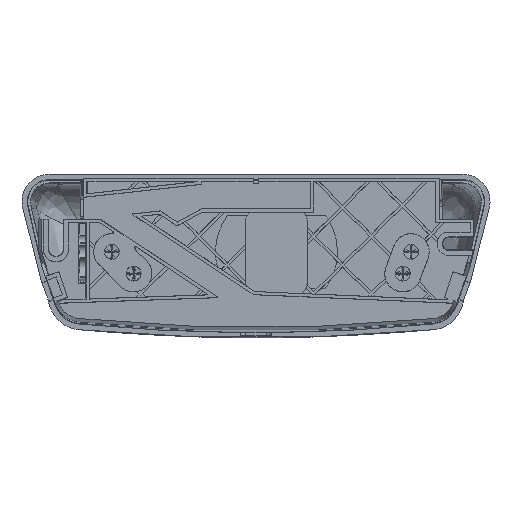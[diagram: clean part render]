
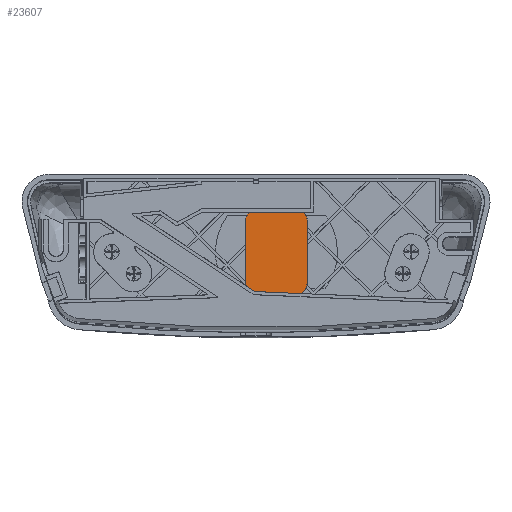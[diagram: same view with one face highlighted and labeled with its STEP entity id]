
A CAD part, front view. The second image highlights one B-rep face of the part: STEP entity #23607.
In plain terms, the highlighted planar face has unit normal (0, -1, 0).
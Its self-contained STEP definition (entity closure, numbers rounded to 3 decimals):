
#930 = CARTESIAN_POINT ( 'NONE',  ( 118.409, 80.32, 119.118 ) ) ;
#1602 = VECTOR ( 'NONE', #43560, 1000. ) ;
#2126 = DIRECTION ( 'NONE',  ( 1., 0., -0.001 ) ) ;
#3366 = VERTEX_POINT ( 'NONE', #5809 ) ;
#3672 = ORIENTED_EDGE ( 'NONE', *, *, #68533, .T. ) ;
#4600 = VERTEX_POINT ( 'NONE', #20151 ) ;
#4736 = EDGE_CURVE ( 'NONE', #4600, #30158, #47430, .T. ) ;
#5734 = CARTESIAN_POINT ( 'NONE',  ( 97.734, 80.32, 93.012 ) ) ;
#5778 = ORIENTED_EDGE ( 'NONE', *, *, #20110, .T. ) ;
#5809 = CARTESIAN_POINT ( 'NONE',  ( 93.58, 80.32, 92.019 ) ) ;
#5987 = VERTEX_POINT ( 'NONE', #56559 ) ;
#7478 = DIRECTION ( 'NONE',  ( -0.834, 0., 0.552 ) ) ;
#7935 = ORIENTED_EDGE ( 'NONE', *, *, #22826, .T. ) ;
#8481 = CARTESIAN_POINT ( 'NONE',  ( 93.462, 80.32, 116.018 ) ) ;
#8755 = AXIS2_PLACEMENT_3D ( 'NONE', #5734, #11654, #35399 ) ;
#9472 = DIRECTION ( 'NONE',  ( 0., 0., 1. ) ) ;
#11652 = DIRECTION ( 'NONE',  ( 0., -1., 0. ) ) ;
#11654 = DIRECTION ( 'NONE',  ( 0., -1., 0. ) ) ;
#11730 = VECTOR ( 'NONE', #74095, 1000. ) ;
#12328 = EDGE_CURVE ( 'NONE', #36283, #68146, #46794, .T. ) ;
#12363 = VECTOR ( 'NONE', #2126, 1000. ) ;
#13436 = EDGE_CURVE ( 'NONE', #30226, #64357, #76082, .T. ) ;
#13612 = EDGE_LOOP ( 'NONE', ( #60473, #23102, #7935, #14756, #3672, #54552, #49356, #5778, #32128, #37526, #22201 ) ) ;
#14756 = ORIENTED_EDGE ( 'NONE', *, *, #52633, .T. ) ;
#17014 = CARTESIAN_POINT ( 'NONE',  ( 116.009, 80.32, 93.018 ) ) ;
#17960 = DIRECTION ( 'NONE',  ( -0.999, 0., 0.043 ) ) ;
#19092 = CIRCLE ( 'NONE', #50428, 4.274 ) ;
#20110 = EDGE_CURVE ( 'NONE', #4600, #36283, #23067, .T. ) ;
#20151 = CARTESIAN_POINT ( 'NONE',  ( 94.81, 80.32, 119.133 ) ) ;
#21000 = LINE ( 'NONE', #44474, #11730 ) ;
#22201 = ORIENTED_EDGE ( 'NONE', *, *, #45777, .F. ) ;
#22479 = CARTESIAN_POINT ( 'NONE',  ( 93.462, 80.32, 116.018 ) ) ;
#22826 = EDGE_CURVE ( 'NONE', #30226, #50977, #19092, .T. ) ;
#23067 = CIRCLE ( 'NONE', #43872, 4.274 ) ;
#23102 = ORIENTED_EDGE ( 'NONE', *, *, #13436, .F. ) ;
#23607 = ADVANCED_FACE ( 'NONE', ( #31037 ), #52425, .T. ) ;
#25977 = VERTEX_POINT ( 'NONE', #40378 ) ;
#27129 = DIRECTION ( 'NONE',  ( 0., -1., 0. ) ) ;
#30158 = VERTEX_POINT ( 'NONE', #930 ) ;
#30226 = VERTEX_POINT ( 'NONE', #67120 ) ;
#31037 = FACE_OUTER_BOUND ( 'NONE', #13612, .T. ) ;
#32128 = ORIENTED_EDGE ( 'NONE', *, *, #12328, .T. ) ;
#35256 = CARTESIAN_POINT ( 'NONE',  ( 102.786, 80.32, 89.672 ) ) ;
#35399 = DIRECTION ( 'NONE',  ( 0., 0., -1. ) ) ;
#36139 = CIRCLE ( 'NONE', #58542, 4.274 ) ;
#36283 = VERTEX_POINT ( 'NONE', #22479 ) ;
#37200 = DIRECTION ( 'NONE',  ( 0., -1., 0. ) ) ;
#37526 = ORIENTED_EDGE ( 'NONE', *, *, #74597, .T. ) ;
#37744 = EDGE_CURVE ( 'NONE', #5987, #30158, #21000, .T. ) ;
#38809 = AXIS2_PLACEMENT_3D ( 'NONE', #39493, #27129, #39234 ) ;
#39188 = DIRECTION ( 'NONE',  ( 0., -1., 0. ) ) ;
#39234 = DIRECTION ( 'NONE',  ( 0., 0., -1. ) ) ;
#39493 = CARTESIAN_POINT ( 'NONE',  ( 111.736, 80.32, 116.018 ) ) ;
#39722 = VECTOR ( 'NONE', #7478, 1000. ) ;
#40378 = CARTESIAN_POINT ( 'NONE',  ( 116.009, 80.32, 116.018 ) ) ;
#41057 = AXIS2_PLACEMENT_3D ( 'NONE', #76077, #11652, #46734 ) ;
#43388 = DIRECTION ( 'NONE',  ( 0., 0., -1. ) ) ;
#43560 = DIRECTION ( 'NONE',  ( 0., 0., -1. ) ) ;
#43872 = AXIS2_PLACEMENT_3D ( 'NONE', #44586, #39188, #50784 ) ;
#44474 = CARTESIAN_POINT ( 'NONE',  ( 118.436, 80.32, 119.118 ) ) ;
#44586 = CARTESIAN_POINT ( 'NONE',  ( 97.736, 80.32, 116.018 ) ) ;
#45777 = EDGE_CURVE ( 'NONE', #71173, #3366, #58180, .T. ) ;
#46734 = DIRECTION ( 'NONE',  ( 0., 0., -1. ) ) ;
#46794 = LINE ( 'NONE', #8481, #1602 ) ;
#47430 = LINE ( 'NONE', #49782, #12363 ) ;
#49356 = ORIENTED_EDGE ( 'NONE', *, *, #4736, .F. ) ;
#49655 = CARTESIAN_POINT ( 'NONE',  ( 96.011, 80.32, 90.41 ) ) ;
#49782 = CARTESIAN_POINT ( 'NONE',  ( 98.18, 80.32, 119.131 ) ) ;
#50428 = AXIS2_PLACEMENT_3D ( 'NONE', #53857, #59531, #59021 ) ;
#50784 = DIRECTION ( 'NONE',  ( 0., 0., -1. ) ) ;
#50977 = VERTEX_POINT ( 'NONE', #17014 ) ;
#51675 = CIRCLE ( 'NONE', #8755, 3.12 ) ;
#52425 = PLANE ( 'NONE',  #41057 ) ;
#52633 = EDGE_CURVE ( 'NONE', #50977, #25977, #55910, .T. ) ;
#53281 = CIRCLE ( 'NONE', #38809, 4.274 ) ;
#53857 = CARTESIAN_POINT ( 'NONE',  ( 111.736, 80.32, 93.018 ) ) ;
#54053 = VECTOR ( 'NONE', #9472, 1000. ) ;
#54552 = ORIENTED_EDGE ( 'NONE', *, *, #37744, .T. ) ;
#55910 = LINE ( 'NONE', #62845, #54053 ) ;
#56559 = CARTESIAN_POINT ( 'NONE',  ( 114.678, 80.32, 119.118 ) ) ;
#57925 = EDGE_CURVE ( 'NONE', #71173, #64357, #51675, .T. ) ;
#58180 = LINE ( 'NONE', #72191, #39722 ) ;
#58542 = AXIS2_PLACEMENT_3D ( 'NONE', #66338, #37200, #43388 ) ;
#59021 = DIRECTION ( 'NONE',  ( 0., 0., -1. ) ) ;
#59531 = DIRECTION ( 'NONE',  ( 0., -1., 0. ) ) ;
#60473 = ORIENTED_EDGE ( 'NONE', *, *, #57925, .T. ) ;
#62845 = CARTESIAN_POINT ( 'NONE',  ( 116.009, 80.32, 116.018 ) ) ;
#64357 = VERTEX_POINT ( 'NONE', #64961 ) ;
#64961 = CARTESIAN_POINT ( 'NONE',  ( 97.6, 80.32, 89.895 ) ) ;
#66338 = CARTESIAN_POINT ( 'NONE',  ( 97.736, 80.32, 93.018 ) ) ;
#67120 = CARTESIAN_POINT ( 'NONE',  ( 113.664, 80.32, 89.204 ) ) ;
#68146 = VERTEX_POINT ( 'NONE', #75350 ) ;
#68533 = EDGE_CURVE ( 'NONE', #25977, #5987, #53281, .T. ) ;
#69703 = VECTOR ( 'NONE', #17960, 1000. ) ;
#71173 = VERTEX_POINT ( 'NONE', #49655 ) ;
#72191 = CARTESIAN_POINT ( 'NONE',  ( 148.058, 80.32, 55.961 ) ) ;
#74095 = DIRECTION ( 'NONE',  ( 1., 0., 0. ) ) ;
#74597 = EDGE_CURVE ( 'NONE', #68146, #3366, #36139, .T. ) ;
#75350 = CARTESIAN_POINT ( 'NONE',  ( 93.462, 80.32, 93.018 ) ) ;
#76077 = CARTESIAN_POINT ( 'NONE',  ( 97.736, 80.32, 116.018 ) ) ;
#76082 = LINE ( 'NONE', #35256, #69703 ) ;
